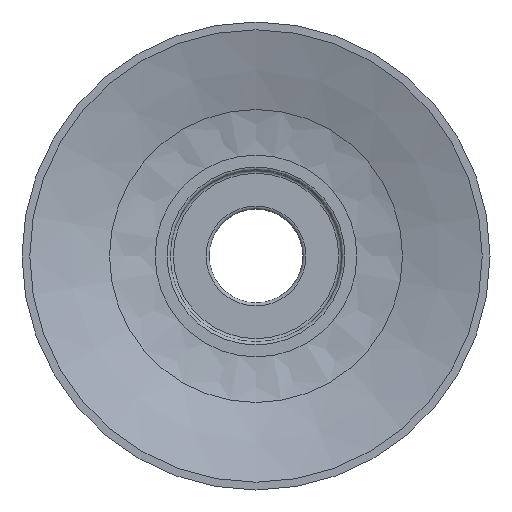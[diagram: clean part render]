
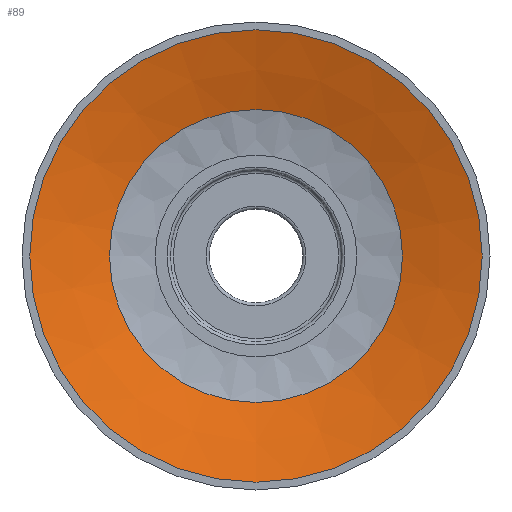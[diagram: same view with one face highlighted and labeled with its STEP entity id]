
A CAD part, front view. The second image highlights one B-rep face of the part: STEP entity #89.
In plain terms, the highlighted conical face has half-angle 73 degrees and reference radius 7.958 mm.
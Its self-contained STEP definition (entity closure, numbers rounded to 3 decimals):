
#89=ADVANCED_FACE('',(#133,#134),#135,.F.);
#133=FACE_BOUND('',#212,.T.);
#134=FACE_OUTER_BOUND('',#213,.T.);
#135=CONICAL_SURFACE('',#214,7.958,1.274);
#212=EDGE_LOOP('',(#282));
#213=EDGE_LOOP('',(#283));
#214=AXIS2_PLACEMENT_3D('',#284,#285,#286);
#282=ORIENTED_EDGE('',*,*,#289,.T.);
#283=ORIENTED_EDGE('',*,*,#292,.T.);
#284=CARTESIAN_POINT('',(0.0,9.363,0.0));
#285=DIRECTION('',(-0.0,-1.0,0.));
#286=DIRECTION('',(0.0,0.,-1.0));
#289=EDGE_CURVE('',#306,#306,#307,.F.);
#292=EDGE_CURVE('',#312,#312,#313,.T.);
#306=VERTEX_POINT('',#336);
#307=CIRCLE('',#337,9.388);
#312=VERTEX_POINT('',#342);
#313=CIRCLE('',#343,14.5);
#336=CARTESIAN_POINT('',(0.0,8.926,-9.388));
#337=AXIS2_PLACEMENT_3D('',#368,#369,#370);
#342=CARTESIAN_POINT('',(14.5,7.363,0.0));
#343=AXIS2_PLACEMENT_3D('',#377,#378,#379);
#368=CARTESIAN_POINT('',(0.0,8.926,0.));
#369=DIRECTION('',(0.0,-1.0,0.));
#370=DIRECTION('',(0.0,0.,-1.0));
#377=CARTESIAN_POINT('',(0.0,7.363,0.0));
#378=DIRECTION('',(0.0,-1.0,0.));
#379=DIRECTION('',(0.0,0.,-1.0));
